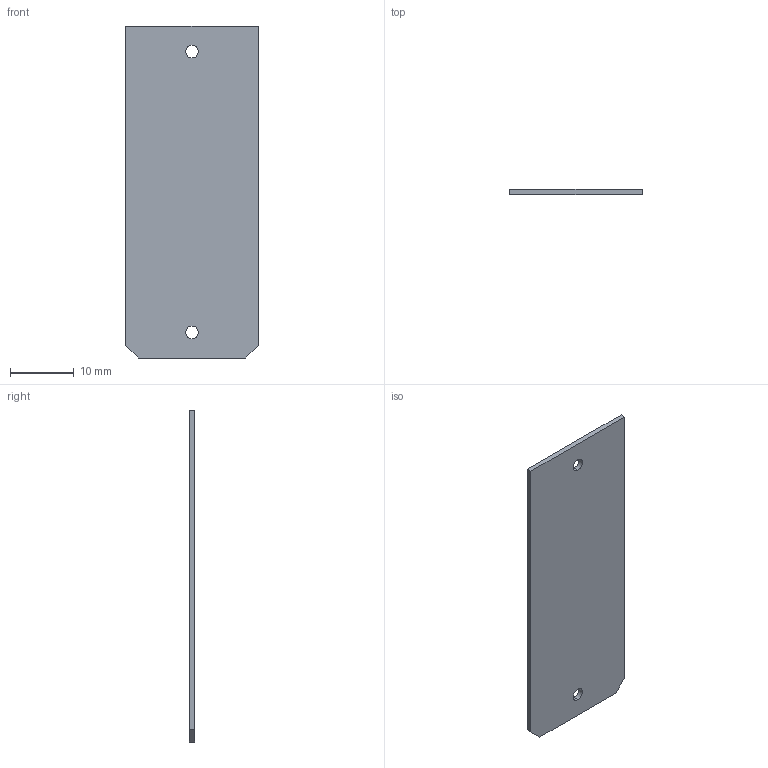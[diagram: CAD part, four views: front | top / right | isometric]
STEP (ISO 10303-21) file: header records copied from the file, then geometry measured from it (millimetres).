
FILE_DESCRIPTION (( 'STEP AP214' ), '1' );
FILE_NAME ('HLBRX-00-040-3-POLARIZER-H.STEP', '2021-11-05T07:29:32', ( '' ), ( '' ), 'SwSTEP 2.0', 'SolidWorks 2021', '' );
FILE_SCHEMA (( 'AUTOMOTIVE_DESIGN' ));
Length unit declared in the file: millimetre
Products named in the file (1): HLBRX-00-040-3-POLARIZER-H
Bounding box: 20.8 x 0.8 x 52 mm (x, y, z)
Volume: 857.1 mm3; surface area: 2267.3 mm2
Topology: 1 solids, 1 shells, 12 faces, 30 edges, 20 vertices
Faces by surface type: plane 8, cylinder 4
Entity records: 404 total; most frequent: DIRECTION 64, CARTESIAN_POINT 63, ORIENTED_EDGE 60, EDGE_CURVE 30, VECTOR 22, LINE 22, AXIS2_PLACEMENT_3D 21, VERTEX_POINT 20
